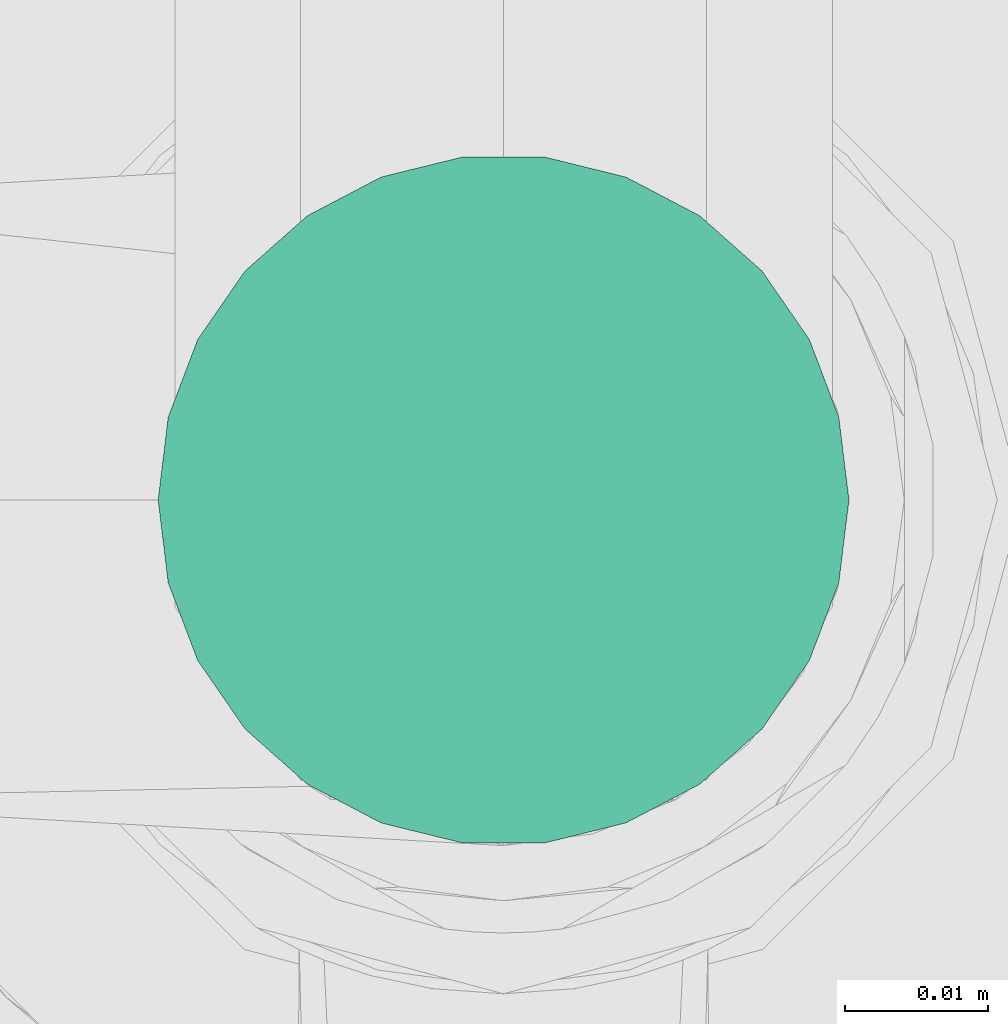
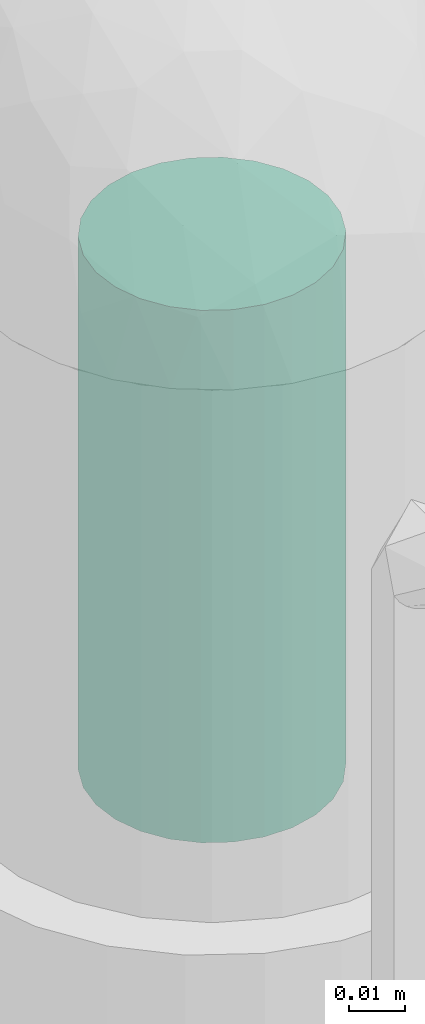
# One storey, part 74 of 94: 1 flow segment.
"""IFC2X3 building model written with IfcOpenShell, lengths in millimetres."""

from ifc_helpers import new_model, entity, si_unit, converted_unit, derived_unit, direction, frame, origin, origin_2d_with_axis, place, context, subcontext, project, spatial, circle, extrude, type_object, element, save


model = new_model("IFC2X3")

# Units and contexts
model_context = context("Model", 3, precision=0.01, world=origin(), true_north=direction((6.123031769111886e-17, 1.0)))
body_context = subcontext(model_context, "Body", "Model", "MODEL_VIEW")
ifc_project = project(units=[si_unit("LENGTHUNIT", "METRE", prefix="MILLI"), si_unit("AREAUNIT", "SQUARE_METRE"), si_unit("VOLUMEUNIT", "CUBIC_METRE"), converted_unit("PLANEANGLEUNIT", "DEGREE", entity("IfcRatioMeasure", 0.017453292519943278), si_unit("PLANEANGLEUNIT", "RADIAN"), dimensions=[0, 0, 0, 0, 0, 0, 0]), si_unit("MASSUNIT", "GRAM", prefix="KILO"), derived_unit("MASSDENSITYUNIT", [(si_unit("MASSUNIT", "GRAM", prefix="KILO"), 1), (si_unit("LENGTHUNIT", "METRE"), -3)]), derived_unit("IONCONCENTRATIONUNIT", [(si_unit("MASSUNIT", "GRAM", prefix="KILO"), 1), (si_unit("LENGTHUNIT", "METRE"), -3)]), derived_unit("MOMENTOFINERTIAUNIT", [(si_unit("LENGTHUNIT", "METRE"), 4)]), si_unit("TIMEUNIT", "SECOND"), si_unit("FREQUENCYUNIT", "HERTZ"), si_unit("THERMODYNAMICTEMPERATUREUNIT", "DEGREE_CELSIUS"), derived_unit("THERMALTRANSMITTANCEUNIT", [(si_unit("MASSUNIT", "GRAM", prefix="KILO"), 1), (si_unit("THERMODYNAMICTEMPERATUREUNIT", "KELVIN"), -1), (si_unit("TIMEUNIT", "SECOND"), -3)]), derived_unit("THERMALCONDUCTANCEUNIT", [(si_unit("MASSUNIT", "GRAM", prefix="KILO"), 1), (si_unit("THERMODYNAMICTEMPERATUREUNIT", "KELVIN"), -1), (si_unit("TIMEUNIT", "SECOND"), -3), (si_unit("LENGTHUNIT", "METRE"), 1)]), derived_unit("VOLUMETRICFLOWRATEUNIT", [(si_unit("LENGTHUNIT", "METRE"), 3), (si_unit("TIMEUNIT", "SECOND"), -1)]), derived_unit("MASSFLOWRATEUNIT", [(si_unit("MASSUNIT", "GRAM", prefix="KILO"), 1), (si_unit("TIMEUNIT", "SECOND"), -1)]), derived_unit("ROTATIONALFREQUENCYUNIT", [(si_unit("TIMEUNIT", "SECOND"), -1)]), si_unit("ELECTRICCURRENTUNIT", "AMPERE"), si_unit("ELECTRICVOLTAGEUNIT", "VOLT"), si_unit("POWERUNIT", "WATT"), si_unit("FORCEUNIT", "NEWTON", prefix="KILO"), si_unit("ILLUMINANCEUNIT", "LUX"), si_unit("LUMINOUSFLUXUNIT", "LUMEN"), si_unit("LUMINOUSINTENSITYUNIT", "CANDELA"), derived_unit("USERDEFINED", [(si_unit("MASSUNIT", "GRAM", prefix="KILO"), -1), (si_unit("LENGTHUNIT", "METRE"), -2), (si_unit("TIMEUNIT", "SECOND"), 3), (si_unit("LUMINOUSFLUXUNIT", "LUMEN"), 1)]), derived_unit("USERDEFINED", [(si_unit("MASSUNIT", "GRAM", prefix="KILO"), 1), (si_unit("TIMEUNIT", "SECOND"), -3), (si_unit("LENGTHUNIT", "METRE"), 3), (si_unit("ELECTRICCURRENTUNIT", "AMPERE"), -2)]), derived_unit("SOUNDPOWERUNIT", [(si_unit("MASSUNIT", "GRAM", prefix="KILO"), 1), (si_unit("TIMEUNIT", "SECOND"), -3), (si_unit("LENGTHUNIT", "METRE"), 2)]), derived_unit("SOUNDPRESSUREUNIT", [(si_unit("MASSUNIT", "GRAM", prefix="KILO"), 1), (si_unit("LENGTHUNIT", "METRE"), -1), (si_unit("TIMEUNIT", "SECOND"), -2)]), derived_unit("LINEARVELOCITYUNIT", [(si_unit("LENGTHUNIT", "METRE"), 1), (si_unit("TIMEUNIT", "SECOND"), -1)]), si_unit("PRESSUREUNIT", "PASCAL"), derived_unit("USERDEFINED", [(si_unit("MASSUNIT", "GRAM", prefix="KILO"), 1), (si_unit("LENGTHUNIT", "METRE"), -2), (si_unit("TIMEUNIT", "SECOND"), -2)]), derived_unit("LINEARFORCEUNIT", [(si_unit("MASSUNIT", "GRAM", prefix="KILO"), 1), (si_unit("TIMEUNIT", "SECOND"), -2)]), derived_unit("PLANARFORCEUNIT", [(si_unit("MASSUNIT", "GRAM", prefix="KILO"), 1), (si_unit("LENGTHUNIT", "METRE"), -1), (si_unit("TIMEUNIT", "SECOND"), -2)]), derived_unit("SPECIFICHEATCAPACITYUNIT", [(si_unit("THERMODYNAMICTEMPERATUREUNIT", "KELVIN"), -1), (si_unit("LENGTHUNIT", "METRE"), 2), (si_unit("TIMEUNIT", "SECOND"), -2)]), derived_unit("HEATINGVALUEUNIT", [(si_unit("LENGTHUNIT", "METRE"), 2), (si_unit("TIMEUNIT", "SECOND"), -2)]), derived_unit("VAPORPERMEABILITYUNIT", [(si_unit("LENGTHUNIT", "METRE"), -1), (si_unit("TIMEUNIT", "SECOND"), 1)]), derived_unit("DYNAMICVISCOSITYUNIT", [(si_unit("MASSUNIT", "GRAM", prefix="KILO"), 1), (si_unit("TIMEUNIT", "SECOND"), -1), (si_unit("LENGTHUNIT", "METRE"), -1)]), derived_unit("THERMALEXPANSIONCOEFFICIENTUNIT", [(si_unit("THERMODYNAMICTEMPERATUREUNIT", "KELVIN"), -1)]), derived_unit("MODULUSOFELASTICITYUNIT", [(si_unit("MASSUNIT", "GRAM", prefix="KILO"), 1), (si_unit("LENGTHUNIT", "METRE"), -1), (si_unit("TIMEUNIT", "SECOND"), -2)]), derived_unit("ISOTHERMALMOISTURECAPACITYUNIT", [(si_unit("LENGTHUNIT", "METRE"), 3), (si_unit("MASSUNIT", "GRAM", prefix="KILO"), -1)]), derived_unit("MOISTUREDIFFUSIVITYUNIT", [(si_unit("TIMEUNIT", "SECOND"), -1), (si_unit("LENGTHUNIT", "METRE"), 2)])], contexts=[model_context])

# Site, building, storey
site_placement = place(None, origin())
site = spatial("IfcSite", under=ifc_project, at=site_placement, Name="Default", CompositionType="ELEMENT")
building_placement = place(site_placement, origin())
building = spatial("IfcBuilding", under=site, at=building_placement, CompositionType="ELEMENT")
storey_placement = place(building_placement, origin())
storey = spatial("IfcBuildingStorey", under=building, at=storey_placement, Name="Niveau 0", CompositionType="ELEMENT", Elevation=0.0)

# Flow segment
pipe_segment_type = type_object("IfcPipeSegmentType", Name="Canalisation:Bride acier", PredefinedType="NOTDEFINED")
flow_segment_placement = place(storey_placement, origin())
element("IfcFlowSegment", 1, at=flow_segment_placement, inside=storey, type_object=pipe_segment_type, Name="Canalisation:Bride acier", ObjectType="Canalisation:Bride acier", context=body_context, shape_type="SweptSolid", body=[
    extrude(circle(Radius=24.13, at=origin_2d_with_axis()), frame((-9872.145865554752, 9922.470546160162, 2695.0)), (0.0, 0.0, 1.0), 116.99999999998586),
])

save(model, "model.ifc")
